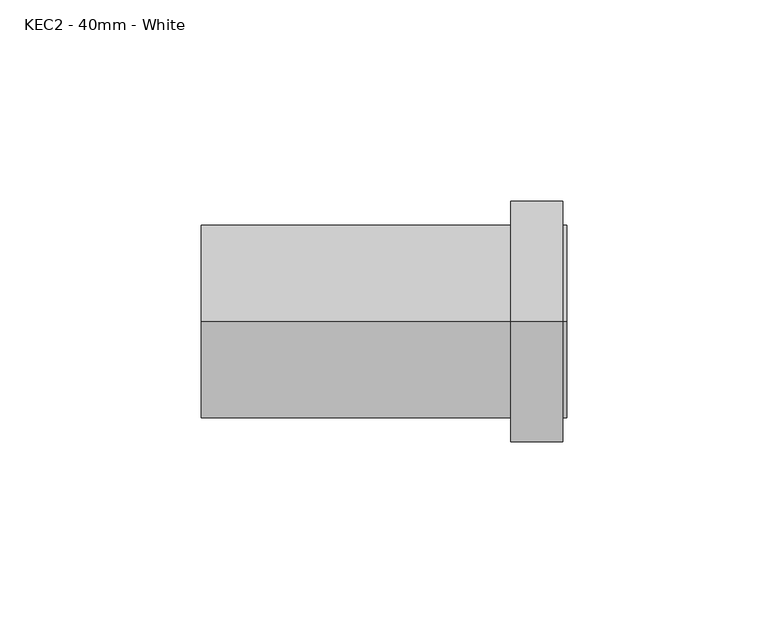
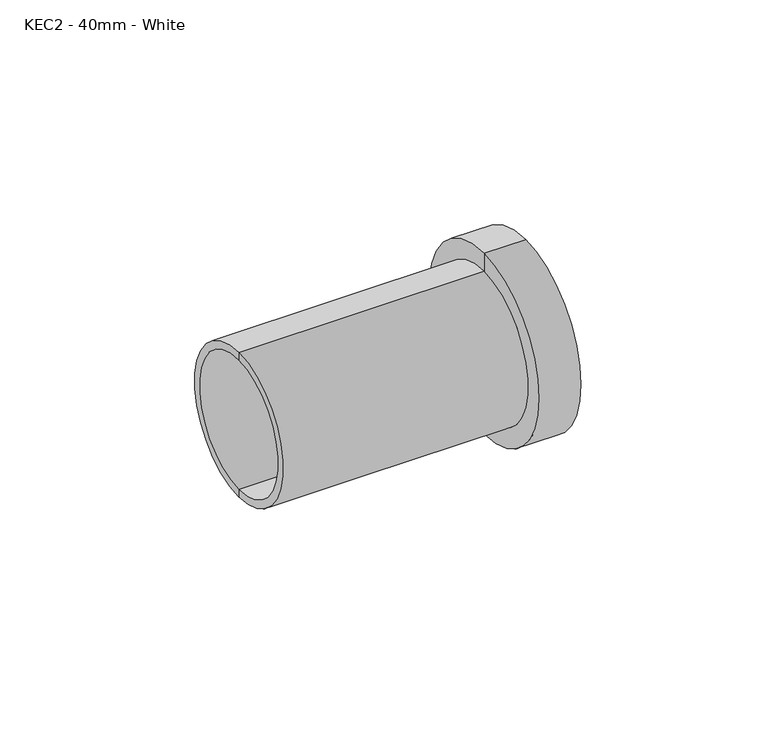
"""IFC4 building model written with IfcOpenShell, lengths in millimetres: pipe fitting geometry, MarleyPlumbingAndDrainage_PipeFitting_ExpansionCoupling : KEC2 - 40mm - White."""

from ifc_helpers import new_model, si_unit, frame, origin, place, context, project, spatial, polyline, circle_curve, source, transform, mapped, element, save
from ifc_brep_helpers import plane_surface, cylinder_surface, revolved_surface, advanced_brep


def kec2_40mm_white_910cb4ee(model_context):
    return source(origin(), model_context, "Body", "AdvancedBrep", [
        advanced_brep(
        [(-41.8253818, 0.0, -21.5), (-41.8253818, 0.0, 21.5), (-41.8253818, 0.0, 24.0), (-41.8253818, 0.0, -24.0), (49.1746182, 0.0, -21.5), (49.1746182, 0.0, 21.5), (-14.8253818, 0.0, 21.5), (-14.8253818, 0.0, -21.5), (49.1746182, 0.0, -24.0), (49.1746182, 0.0, 24.0), (-18.8253818, 0.0, -21.5), (-18.8253818, 0.0, 21.5), (-18.8253818, 0.0, 0.0), (-14.8253818, 0.0, 0.0), (48.1746182, 0.0, -24.0), (48.1746182, 0.0, 24.0), (48.1746182, 0.0, -30.0), (48.1746182, 0.0, 30.0), (35.1746182, 0.0, -30.0), (35.1746182, 0.0, 30.0), (35.1746182, 0.0, -24.0), (35.1746182, 0.0, 24.0)],
        [
            (0, 1, circle_curve(frame((-41.8253818, 0.0, 0.0), z_axis=(1.0, 0.0, 0.0), x_axis=(0.0, 0.0, 1.0)), 21.5)),
            (1, 2),
            (2, 3, circle_curve(frame((-41.8253818, 0.0, 0.0), z_axis=(-1.0, 0.0, 0.0), x_axis=(0.0, 0.0, 1.0)), 24.0)),
            (3, 0),
            (1, 0, circle_curve(frame((-41.8253818, 0.0, 0.0), z_axis=(1.0, 0.0, 0.0), x_axis=(0.0, 0.0, 1.0)), 21.5)),
            (3, 2, circle_curve(frame((-41.8253818, 0.0, 0.0), z_axis=(-1.0, 0.0, 0.0), x_axis=(0.0, 0.0, 1.0)), 24.0)),
            (4, 5, circle_curve(frame((49.1746182, 0.0, 0.0), z_axis=(1.0, 0.0, 0.0), x_axis=(0.0, 0.0, 1.0)), 21.5)),
            (5, 6),
            (6, 7, circle_curve(frame((-14.8253818, 0.0, 0.0), z_axis=(-1.0, 0.0, 0.0), x_axis=(0.0, 0.0, 1.0)), 21.5)),
            (7, 4),
            (5, 4, circle_curve(frame((49.1746182, 0.0, 0.0), z_axis=(1.0, 0.0, 0.0), x_axis=(0.0, 0.0, 1.0)), 21.5)),
            (7, 6, circle_curve(frame((-14.8253818, 0.0, 0.0), z_axis=(-1.0, 0.0, 0.0), x_axis=(0.0, 0.0, 1.0)), 21.5)),
            (8, 9, circle_curve(frame((49.1746182, 0.0, 0.0), z_axis=(1.0, 0.0, 0.0), x_axis=(0.0, 0.0, 1.0)), 24.0)),
            (9, 5),
            (4, 8),
            (9, 8, circle_curve(frame((49.1746182, 0.0, 0.0), z_axis=(1.0, 0.0, 0.0), x_axis=(0.0, 0.0, 1.0)), 24.0)),
            (10, 11, circle_curve(frame((-18.8253818, 0.0, 0.0), z_axis=(1.0, 0.0, 0.0), x_axis=(0.0, 0.0, 1.0)), 21.5)),
            (11, 1),
            (0, 10),
            (11, 10, circle_curve(frame((-18.8253818, 0.0, 0.0), z_axis=(1.0, 0.0, 0.0), x_axis=(0.0, 0.0, 1.0)), 21.5)),
            (12, 11),
            (10, 12),
            (6, 13),
            (13, 7),
            (14, 15, circle_curve(frame((48.1746182, 0.0, 0.0), z_axis=(1.0, 0.0, 0.0), x_axis=(0.0, 0.0, 1.0)), 24.0)),
            (15, 9),
            (8, 14),
            (15, 14, circle_curve(frame((48.1746182, 0.0, 0.0), z_axis=(1.0, 0.0, 0.0), x_axis=(0.0, 0.0, 1.0)), 24.0)),
            (16, 17, circle_curve(frame((48.1746182, 0.0, 0.0), z_axis=(1.0, 0.0, 0.0), x_axis=(0.0, 0.0, 1.0)), 30.0)),
            (17, 15),
            (14, 16),
            (17, 16, circle_curve(frame((48.1746182, 0.0, 0.0), z_axis=(1.0, 0.0, 0.0), x_axis=(0.0, 0.0, 1.0)), 30.0)),
            (18, 19, circle_curve(frame((35.1746182, 0.0, 0.0), z_axis=(1.0, 0.0, 0.0), x_axis=(0.0, 0.0, 1.0)), 30.0)),
            (19, 17),
            (16, 18),
            (19, 18, circle_curve(frame((35.1746182, 0.0, 0.0), z_axis=(1.0, 0.0, 0.0), x_axis=(0.0, 0.0, 1.0)), 30.0)),
            (20, 21, circle_curve(frame((35.1746182, 0.0, 0.0), z_axis=(1.0, 0.0, 0.0), x_axis=(0.0, 0.0, 1.0)), 24.0)),
            (21, 19),
            (18, 20),
            (21, 20, circle_curve(frame((35.1746182, 0.0, 0.0), z_axis=(1.0, 0.0, 0.0), x_axis=(0.0, 0.0, 1.0)), 24.0)),
            (2, 21),
            (20, 3),
        ],
        [
            plane_surface(frame((-41.8253818, 0.0, 0.0), z_axis=(-1.0, 0.0, 0.0), x_axis=(0.0, 0.0, 1.0))),
            revolved_surface(polyline([(-14.82538180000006, 0.0, 21.5), (49.17461819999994, 0.0, 21.5)]), (-1179.7325039, 0.0, 0.0), (-1.0, 0.0, 0.0)),
            plane_surface(frame((49.1746182, 0.0, 0.0), z_axis=(1.0, 0.0, 0.0), x_axis=(0.0, 0.0, 1.0))),
            revolved_surface(polyline([(-41.82538180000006, 0.0, 21.5), (-18.82538180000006, 0.0, 21.5)]), (-1179.7325039, 0.0, 0.0), (-1.0, 0.0, 0.0)),
            plane_surface(frame((-18.8253818, 0.0, 0.0), z_axis=(-1.0, 0.0, 0.0), x_axis=(0.0, 0.0, 1.0))),
            plane_surface(frame((-14.8253818, 0.0, 0.0), z_axis=(1.0, 0.0, 0.0), x_axis=(0.0, 0.0, 1.0))),
            cylinder_surface(frame((-1179.7325039, 0.0, 0.0), z_axis=(-1.0, 0.0, 0.0), x_axis=(0.0, 0.0, 1.0)), 24.0),
            plane_surface(frame((48.1746182, 0.0, 0.0), z_axis=(1.0, 0.0, 0.0), x_axis=(0.0, 0.0, 1.0))),
            cylinder_surface(frame((-1179.7325039, 0.0, 0.0), z_axis=(-1.0, 0.0, 0.0), x_axis=(0.0, 0.0, 1.0)), 30.0),
            plane_surface(frame((35.1746182, 0.0, 0.0), z_axis=(-1.0, 0.0, 0.0), x_axis=(0.0, 0.0, 1.0))),
        ],
        [
            (0, [[1, 2, 3, 4]]),
            (0, [[5, -4, 6, -2]]),
            (1, [[7, 8, 9, 10]]),
            (1, [[11, -10, 12, -8]]),
            (2, [[13, 14, -7, 15]]),
            (2, [[16, -15, -11, -14]]),
            (3, [[17, 18, -1, 19]]),
            (3, [[20, -19, -5, -18]]),
            (4, [[21, -17, 22]]),
            (4, [[-22, -20, -21]]),
            (5, [[-9, 23, 24]]),
            (5, [[-12, -24, -23]]),
            (6, [[25, 26, -13, 27]]),
            (6, [[28, -27, -16, -26]]),
            (7, [[29, 30, -25, 31]]),
            (7, [[32, -31, -28, -30]]),
            (8, [[33, 34, -29, 35]]),
            (8, [[36, -35, -32, -34]]),
            (9, [[37, 38, -33, 39]]),
            (9, [[40, -39, -36, -38]]),
            (6, [[-3, 41, -37, 42]]),
            (6, [[-6, -42, -40, -41]]),
        ],
    ),
    ])


if __name__ == "__main__":
    model = new_model("IFC4")
    model_context = context("Model", 3, world=origin())
    ifc_project = project(units=[si_unit("LENGTHUNIT", "METRE", prefix="MILLI")], contexts=[model_context])
    site = spatial("IfcSite", under=ifc_project)
    building = spatial("IfcBuilding", under=site)
    placement = place(None, origin())
    kec2_40mm_white_shape = kec2_40mm_white_910cb4ee(model_context)
    element("IfcPipeFitting", 1, ObjectType="MarleyPlumbingAndDrainage_PipeFitting_ExpansionCoupling : KEC2 - 40mm - White", at=placement, inside=building, context=model_context, shape_type="MappedRepresentation", body=[
        mapped(kec2_40mm_white_shape, transform((0.0, 0.0, 0.0), x_axis=(1.0, 0.0, 0.0), y_axis=(0.0, 1.0, 0.0), z_axis=(0.0, 0.0, 1.0))),
    ])
    save(model, "model.ifc")
